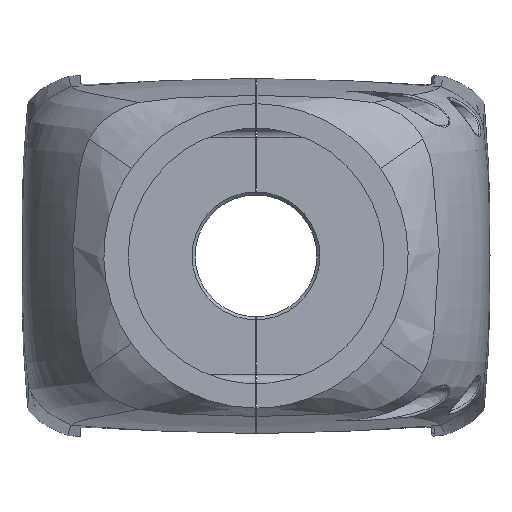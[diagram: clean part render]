
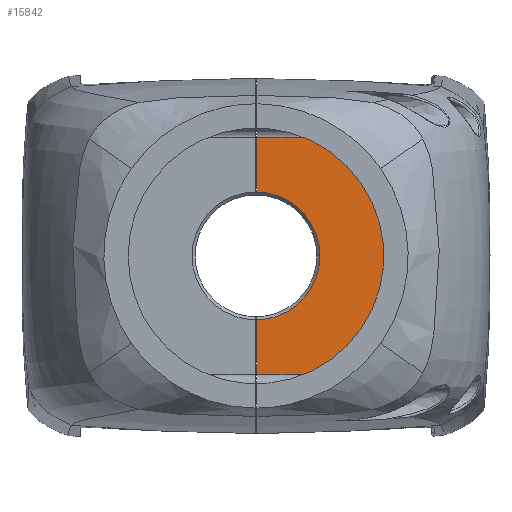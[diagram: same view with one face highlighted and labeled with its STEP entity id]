
A CAD part, left-side view. The second image highlights one B-rep face of the part: STEP entity #15842.
In plain terms, the highlighted planar face has unit normal (-1, 0, 0).
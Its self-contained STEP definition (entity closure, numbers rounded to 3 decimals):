
#66 = CARTESIAN_POINT ( 'NONE',  ( -25.447, 23.818, 19.453 ) ) ;
#169 = CARTESIAN_POINT ( 'NONE',  ( -25.447, 14.974, -19.347 ) ) ;
#273 = AXIS2_PLACEMENT_3D ( 'NONE', #2926, #14131, #10794 ) ;
#560 = DIRECTION ( 'NONE',  ( 0., 0., 1. ) ) ;
#721 = VERTEX_POINT ( 'NONE', #8562 ) ;
#809 = CARTESIAN_POINT ( 'NONE',  ( -25.447, 23.918, 0.053 ) ) ;
#830 = VECTOR ( 'NONE', #1609, 1000. ) ;
#1049 = ORIENTED_EDGE ( 'NONE', *, *, #3185, .T. ) ;
#1402 = CARTESIAN_POINT ( 'NONE',  ( -25.447, 14.974, 19.453 ) ) ;
#1472 = EDGE_CURVE ( 'NONE', #5348, #10096, #4753, .T. ) ;
#1609 = DIRECTION ( 'NONE',  ( 0., 0., 1. ) ) ;
#1649 = EDGE_CURVE ( 'NONE', #13882, #721, #14040, .T. ) ;
#1852 = DIRECTION ( 'NONE',  ( 0., 1., 0. ) ) ;
#2043 = VERTEX_POINT ( 'NONE', #13373 ) ;
#2539 = VERTEX_POINT ( 'NONE', #14527 ) ;
#2926 = CARTESIAN_POINT ( 'NONE',  ( -25.447, 23.918, 0.053 ) ) ;
#3185 = EDGE_CURVE ( 'NONE', #721, #9958, #3695, .T. ) ;
#3270 = ORIENTED_EDGE ( 'NONE', *, *, #8052, .T. ) ;
#3372 = CARTESIAN_POINT ( 'NONE',  ( -25.447, 23.918, 0.053 ) ) ;
#3561 = CARTESIAN_POINT ( 'NONE',  ( -25.447, 13.214, 18.583 ) ) ;
#3627 = CARTESIAN_POINT ( 'NONE',  ( -25.447, -0.978, -10.396 ) ) ;
#3643 = VERTEX_POINT ( 'NONE', #19901 ) ;
#3695 = LINE ( 'NONE', #20078, #20223 ) ;
#3799 = LINE ( 'NONE', #14027, #8866 ) ;
#3801 = DIRECTION ( 'NONE',  ( -1., 0., 0. ) ) ;
#4357 = VERTEX_POINT ( 'NONE', #17035 ) ;
#4530 = CARTESIAN_POINT ( 'NONE',  ( -25.447, 23.818, -10.447 ) ) ;
#4623 = AXIS2_PLACEMENT_3D ( 'NONE', #19577, #12692, #17956 ) ;
#4753 = CIRCLE ( 'NONE', #17825, 21.4 ) ;
#5031 = CARTESIAN_POINT ( 'NONE',  ( -25.447, 14.974, -18.947 ) ) ;
#5348 = VERTEX_POINT ( 'NONE', #8643 ) ;
#5455 = VERTEX_POINT ( 'NONE', #4530 ) ;
#5459 = LINE ( 'NONE', #169, #12577 ) ;
#5696 = CARTESIAN_POINT ( 'NONE',  ( -25.447, 14.974, -19.347 ) ) ;
#5776 = DIRECTION ( 'NONE',  ( 1., 0., 0. ) ) ;
#5797 = ORIENTED_EDGE ( 'NONE', *, *, #1649, .T. ) ;
#5955 = EDGE_CURVE ( 'NONE', #8120, #3643, #21244, .T. ) ;
#6031 = CIRCLE ( 'NONE', #16702, 10.5 ) ;
#6058 = EDGE_CURVE ( 'NONE', #2043, #12702, #9097, .T. ) ;
#6680 = VECTOR ( 'NONE', #6985, 1000. ) ;
#6806 = AXIS2_PLACEMENT_3D ( 'NONE', #18568, #3801, #10383 ) ;
#6828 = DIRECTION ( 'NONE',  ( -1., 0., 0. ) ) ;
#6973 = DIRECTION ( 'NONE',  ( 0., -1., 0. ) ) ;
#6985 = DIRECTION ( 'NONE',  ( 0., 1., 0. ) ) ;
#7073 = DIRECTION ( 'NONE',  ( 1., 0., 0. ) ) ;
#7478 = VECTOR ( 'NONE', #12443, 1000. ) ;
#7787 = EDGE_CURVE ( 'NONE', #2539, #5455, #6031, .T. ) ;
#7839 = ORIENTED_EDGE ( 'NONE', *, *, #18347, .T. ) ;
#8052 = EDGE_CURVE ( 'NONE', #17821, #5348, #19805, .T. ) ;
#8114 = DIRECTION ( 'NONE',  ( 0., 0.869, 0.495 ) ) ;
#8120 = VERTEX_POINT ( 'NONE', #14613 ) ;
#8480 = EDGE_CURVE ( 'NONE', #4357, #17821, #5459, .T. ) ;
#8562 = CARTESIAN_POINT ( 'NONE',  ( -25.447, -0.978, 10.502 ) ) ;
#8643 = CARTESIAN_POINT ( 'NONE',  ( -25.447, 14.803, -19.309 ) ) ;
#8792 = FACE_OUTER_BOUND ( 'NONE', #10937, .T. ) ;
#8866 = VECTOR ( 'NONE', #560, 1000. ) ;
#9097 = CIRCLE ( 'NONE', #4623, 0.4 ) ;
#9140 = DIRECTION ( 'NONE',  ( 0., 1., 0. ) ) ;
#9423 = AXIS2_PLACEMENT_3D ( 'NONE', #809, #5776, #17308 ) ;
#9559 = AXIS2_PLACEMENT_3D ( 'NONE', #15366, #7073, #13640 ) ;
#9958 = VERTEX_POINT ( 'NONE', #3561 ) ;
#10096 = VERTEX_POINT ( 'NONE', #15618 ) ;
#10383 = DIRECTION ( 'NONE',  ( 0., 1., 0. ) ) ;
#10618 = PLANE ( 'NONE',  #9559 ) ;
#10794 = DIRECTION ( 'NONE',  ( 0., 1., 0. ) ) ;
#10937 = EDGE_LOOP ( 'NONE', ( #18939, #16102, #11823, #7839, #18888, #13870, #12282, #3270, #13910, #13981, #5797, #1049, #11512 ) ) ;
#10975 = CARTESIAN_POINT ( 'NONE',  ( -25.447, 23.918, 0.053 ) ) ;
#11512 = ORIENTED_EDGE ( 'NONE', *, *, #15479, .T. ) ;
#11823 = ORIENTED_EDGE ( 'NONE', *, *, #5955, .F. ) ;
#12282 = ORIENTED_EDGE ( 'NONE', *, *, #8480, .T. ) ;
#12443 = DIRECTION ( 'NONE',  ( 0., -0.869, 0.495 ) ) ;
#12577 = VECTOR ( 'NONE', #6973, 1000. ) ;
#12692 = DIRECTION ( 'NONE',  ( -1., 0., 0. ) ) ;
#12702 = VERTEX_POINT ( 'NONE', #1402 ) ;
#12757 = CARTESIAN_POINT ( 'NONE',  ( -25.447, 30.583, -28.369 ) ) ;
#13006 = DIRECTION ( 'NONE',  ( -1., 0., 0. ) ) ;
#13215 = CIRCLE ( 'NONE', #9423, 10.5 ) ;
#13373 = CARTESIAN_POINT ( 'NONE',  ( -25.447, 14.803, 19.415 ) ) ;
#13640 = DIRECTION ( 'NONE',  ( 0., 0., -1. ) ) ;
#13870 = ORIENTED_EDGE ( 'NONE', *, *, #20439, .F. ) ;
#13882 = VERTEX_POINT ( 'NONE', #3627 ) ;
#13910 = ORIENTED_EDGE ( 'NONE', *, *, #1472, .T. ) ;
#13981 = ORIENTED_EDGE ( 'NONE', *, *, #15095, .T. ) ;
#14027 = CARTESIAN_POINT ( 'NONE',  ( -25.447, 23.818, 25.253 ) ) ;
#14040 = CIRCLE ( 'NONE', #273, 27. ) ;
#14131 = DIRECTION ( 'NONE',  ( -1., 0., 0. ) ) ;
#14369 = LINE ( 'NONE', #12757, #7478 ) ;
#14527 = CARTESIAN_POINT ( 'NONE',  ( -25.447, 13.418, 0.053 ) ) ;
#14613 = CARTESIAN_POINT ( 'NONE',  ( -25.447, 23.818, 10.552 ) ) ;
#14841 = LINE ( 'NONE', #66, #6680 ) ;
#15095 = EDGE_CURVE ( 'NONE', #10096, #13882, #14369, .T. ) ;
#15366 = CARTESIAN_POINT ( 'NONE',  ( -25.447, 61.118, 25.253 ) ) ;
#15412 = CIRCLE ( 'NONE', #6806, 21.4 ) ;
#15479 = EDGE_CURVE ( 'NONE', #9958, #2043, #15412, .T. ) ;
#15618 = CARTESIAN_POINT ( 'NONE',  ( -25.447, 13.214, -18.478 ) ) ;
#15842 = ADVANCED_FACE ( 'NONE', ( #8792 ), #10618, .F. ) ;
#16102 = ORIENTED_EDGE ( 'NONE', *, *, #18078, .T. ) ;
#16486 = CARTESIAN_POINT ( 'NONE',  ( -25.447, 23.818, 25.253 ) ) ;
#16702 = AXIS2_PLACEMENT_3D ( 'NONE', #10975, #17327, #9140 ) ;
#17035 = CARTESIAN_POINT ( 'NONE',  ( -25.447, 23.818, -19.347 ) ) ;
#17308 = DIRECTION ( 'NONE',  ( 0., 1., 0. ) ) ;
#17327 = DIRECTION ( 'NONE',  ( 1., 0., 0. ) ) ;
#17821 = VERTEX_POINT ( 'NONE', #5696 ) ;
#17825 = AXIS2_PLACEMENT_3D ( 'NONE', #3372, #6828, #1852 ) ;
#17956 = DIRECTION ( 'NONE',  ( 0., 1., 0. ) ) ;
#18073 = AXIS2_PLACEMENT_3D ( 'NONE', #5031, #13006, #18178 ) ;
#18078 = EDGE_CURVE ( 'NONE', #12702, #3643, #14841, .T. ) ;
#18178 = DIRECTION ( 'NONE',  ( 0., 1., 0. ) ) ;
#18347 = EDGE_CURVE ( 'NONE', #8120, #2539, #13215, .T. ) ;
#18568 = CARTESIAN_POINT ( 'NONE',  ( -25.447, 23.918, 0.053 ) ) ;
#18888 = ORIENTED_EDGE ( 'NONE', *, *, #7787, .T. ) ;
#18939 = ORIENTED_EDGE ( 'NONE', *, *, #6058, .T. ) ;
#19577 = CARTESIAN_POINT ( 'NONE',  ( -25.447, 14.974, 19.053 ) ) ;
#19805 = CIRCLE ( 'NONE', #18073, 0.4 ) ;
#19901 = CARTESIAN_POINT ( 'NONE',  ( -25.447, 23.818, 19.453 ) ) ;
#20078 = CARTESIAN_POINT ( 'NONE',  ( -25.447, 52.256, 40.816 ) ) ;
#20223 = VECTOR ( 'NONE', #8114, 1000. ) ;
#20439 = EDGE_CURVE ( 'NONE', #4357, #5455, #3799, .T. ) ;
#21244 = LINE ( 'NONE', #16486, #830 ) ;
